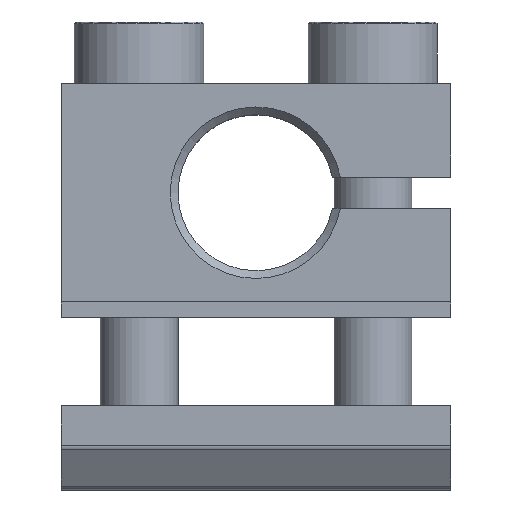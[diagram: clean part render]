
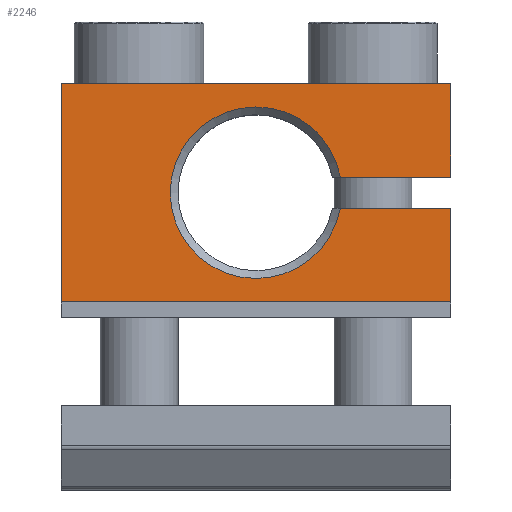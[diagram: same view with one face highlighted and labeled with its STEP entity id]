
A CAD part, top view. The second image highlights one B-rep face of the part: STEP entity #2246.
In plain terms, the highlighted planar face has unit normal (0, 0, 1).
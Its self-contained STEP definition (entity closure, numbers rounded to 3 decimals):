
#277 = CARTESIAN_POINT ( 'NONE',  ( -34.246, 17.495, 22.877 ) ) ;
#611 = DIRECTION ( 'NONE',  ( -1., 0., 0. ) ) ;
#631 = CARTESIAN_POINT ( 'NONE',  ( -34.246, 9.495, 22.877 ) ) ;
#657 = ORIENTED_EDGE ( 'NONE', *, *, #7485, .F. ) ;
#695 = VERTEX_POINT ( 'NONE', #277 ) ;
#828 = CIRCLE ( 'NONE', #7250, 5.5 ) ;
#876 = EDGE_CURVE ( 'NONE', #6001, #695, #2262, .T. ) ;
#1094 = VERTEX_POINT ( 'NONE', #2717 ) ;
#1332 = CARTESIAN_POINT ( 'NONE',  ( -59.246, 2.495, 22.877 ) ) ;
#1382 = ORIENTED_EDGE ( 'NONE', *, *, #8589, .T. ) ;
#1541 = VECTOR ( 'NONE', #3579, 1000. ) ;
#2131 = CARTESIAN_POINT ( 'NONE',  ( -34.246, 9.495, 22.877 ) ) ;
#2142 = CARTESIAN_POINT ( 'NONE',  ( -34.246, 17.495, 22.877 ) ) ;
#2246 = ADVANCED_FACE ( 'NONE', ( #3738 ), #9017, .F. ) ;
#2262 = LINE ( 'NONE', #2142, #7347 ) ;
#2519 = VECTOR ( 'NONE', #7166, 1000. ) ;
#2717 = CARTESIAN_POINT ( 'NONE',  ( -59.246, 3.495, 22.877 ) ) ;
#2747 = EDGE_LOOP ( 'NONE', ( #3041, #3014, #4251, #4283, #1382, #4824, #657, #6617 ) ) ;
#3014 = ORIENTED_EDGE ( 'NONE', *, *, #9130, .T. ) ;
#3041 = ORIENTED_EDGE ( 'NONE', *, *, #9152, .T. ) ;
#3129 = EDGE_CURVE ( 'NONE', #7843, #6001, #5732, .T. ) ;
#3222 = DIRECTION ( 'NONE',  ( 0., 0., -1. ) ) ;
#3368 = VECTOR ( 'NONE', #8814, 1000. ) ;
#3495 = LINE ( 'NONE', #2131, #1541 ) ;
#3579 = DIRECTION ( 'NONE',  ( -1., 0., 0. ) ) ;
#3596 = DIRECTION ( 'NONE',  ( 0., 1., 0. ) ) ;
#3738 = FACE_OUTER_BOUND ( 'NONE', #2747, .T. ) ;
#3902 = CARTESIAN_POINT ( 'NONE',  ( 0., 0., 22.877 ) ) ;
#4132 = VERTEX_POINT ( 'NONE', #7782 ) ;
#4251 = ORIENTED_EDGE ( 'NONE', *, *, #3129, .T. ) ;
#4283 = ORIENTED_EDGE ( 'NONE', *, *, #876, .T. ) ;
#4285 = EDGE_CURVE ( 'NONE', #9100, #1094, #7897, .T. ) ;
#4445 = VECTOR ( 'NONE', #4505, 1000. ) ;
#4505 = DIRECTION ( 'NONE',  ( 1., 0., 0. ) ) ;
#4705 = CARTESIAN_POINT ( 'NONE',  ( -34.246, 3.495, 22.877 ) ) ;
#4713 = DIRECTION ( 'NONE',  ( -1., 0., 0. ) ) ;
#4824 = ORIENTED_EDGE ( 'NONE', *, *, #4285, .T. ) ;
#4980 = LINE ( 'NONE', #6618, #7648 ) ;
#4999 = DIRECTION ( 'NONE',  ( 0., 1., 0. ) ) ;
#5152 = CARTESIAN_POINT ( 'NONE',  ( -59.246, 17.495, 22.877 ) ) ;
#5193 = VERTEX_POINT ( 'NONE', #4705 ) ;
#5397 = VERTEX_POINT ( 'NONE', #631 ) ;
#5416 = EDGE_CURVE ( 'NONE', #5193, #5397, #4980, .T. ) ;
#5732 = LINE ( 'NONE', #8955, #4445 ) ;
#5767 = AXIS2_PLACEMENT_3D ( 'NONE', #3902, #3222, #4713 ) ;
#5916 = DIRECTION ( 'NONE',  ( 0., 0., -1. ) ) ;
#6001 = VERTEX_POINT ( 'NONE', #8578 ) ;
#6251 = LINE ( 'NONE', #8958, #8099 ) ;
#6617 = ORIENTED_EDGE ( 'NONE', *, *, #5416, .T. ) ;
#6618 = CARTESIAN_POINT ( 'NONE',  ( -34.246, 17.495, 22.877 ) ) ;
#7166 = DIRECTION ( 'NONE',  ( -1., 0., 0. ) ) ;
#7250 = AXIS2_PLACEMENT_3D ( 'NONE', #8783, #5916, #611 ) ;
#7347 = VECTOR ( 'NONE', #4999, 1000. ) ;
#7408 = DIRECTION ( 'NONE',  ( -1., 0., 0. ) ) ;
#7485 = EDGE_CURVE ( 'NONE', #5193, #1094, #9220, .T. ) ;
#7648 = VECTOR ( 'NONE', #3596, 1000. ) ;
#7782 = CARTESIAN_POINT ( 'NONE',  ( -41.338, 9.495, 22.877 ) ) ;
#7803 = CARTESIAN_POINT ( 'NONE',  ( -41.338, 11.495, 22.877 ) ) ;
#7843 = VERTEX_POINT ( 'NONE', #7803 ) ;
#7897 = LINE ( 'NONE', #1332, #3368 ) ;
#7988 = CARTESIAN_POINT ( 'NONE',  ( -34.246, 3.495, 22.877 ) ) ;
#8099 = VECTOR ( 'NONE', #7408, 1000. ) ;
#8578 = CARTESIAN_POINT ( 'NONE',  ( -34.246, 11.495, 22.877 ) ) ;
#8589 = EDGE_CURVE ( 'NONE', #695, #9100, #6251, .T. ) ;
#8783 = CARTESIAN_POINT ( 'NONE',  ( -46.746, 10.495, 22.877 ) ) ;
#8814 = DIRECTION ( 'NONE',  ( 0., -1., 0. ) ) ;
#8955 = CARTESIAN_POINT ( 'NONE',  ( -41.847, 11.495, 22.877 ) ) ;
#8958 = CARTESIAN_POINT ( 'NONE',  ( -59.246, 17.495, 22.877 ) ) ;
#9017 = PLANE ( 'NONE',  #5767 ) ;
#9100 = VERTEX_POINT ( 'NONE', #5152 ) ;
#9130 = EDGE_CURVE ( 'NONE', #4132, #7843, #828, .T. ) ;
#9152 = EDGE_CURVE ( 'NONE', #5397, #4132, #3495, .T. ) ;
#9220 = LINE ( 'NONE', #7988, #2519 ) ;
